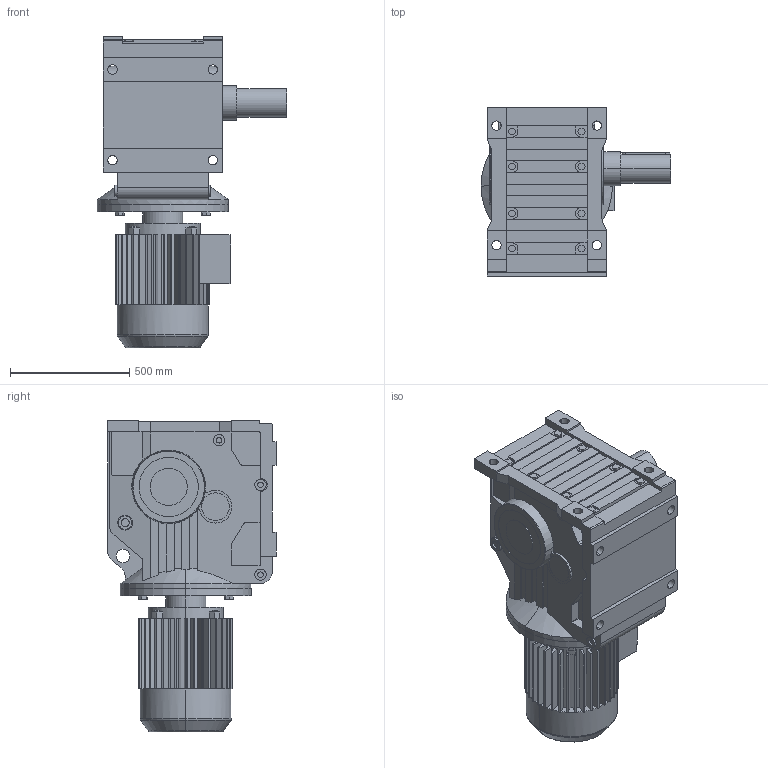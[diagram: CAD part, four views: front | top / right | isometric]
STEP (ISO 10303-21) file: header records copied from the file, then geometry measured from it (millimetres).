
FILE_DESCRIPTION(('Open CASCADE Model'),'2;1');
FILE_NAME('Open CASCADE Shape Model','2021-05-20T14:13:40',('Author'),( 'Open CASCADE'),'Open CASCADE STEP processor 6.3','Open CASCADE 6.3' ,'Unknown');
FILE_SCHEMA(('AUTOMOTIVE_DESIGN_CC2 { 1 2 10303 214 -1 1 5 4 }'));
Length unit declared in the file: millimetre
Products named in the file (4): 1_K157DV200-A; K37‵157_157.step; 萇儂_550-DV200-600-756-394-285.step; す瑩妗陑粣K_157.step
Assembly tree (3 placements, depth 2):
  1_K157DV200-A
    K37‵157_157.step
    萇儂_550-DV200-600-756-394-285.step
    す瑩妗陑粣K_157.step
Bounding box: 795 x 705 x 1306 mm (x, y, z)
Volume: 247155672.3 mm3; surface area: 5340767.9 mm2
Topology: 3 solids, 3 shells, 837 faces, 2207 edges, 1433 vertices
Faces by surface type: plane 584, cylinder 230, cone 15, torus 8
Entity records: 58083 total; most frequent: CARTESIAN_POINT 16148, DIRECTION 7223, ORIENTED_EDGE 4410, PCURVE 4410, DEFINITIONAL_REPRESENTATION 4410, LINE 3940, VECTOR 3940, EDGE_CURVE 2205
